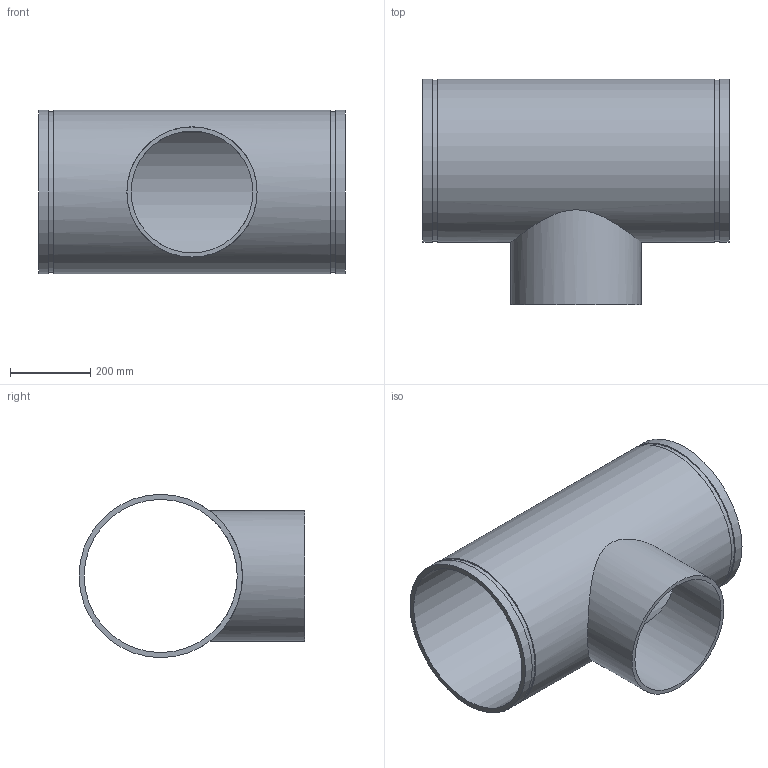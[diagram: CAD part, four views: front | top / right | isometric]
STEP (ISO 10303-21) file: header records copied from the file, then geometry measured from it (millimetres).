
FILE_DESCRIPTION(/* description */ ('VIC REDUCING TEE No 29T FFT (OGSxMPT)','CAx-IF Rec.Pracs.---Representation and Presentation of Product Manufacturing Information (PMI)---4.0---2014-10-13'),/* implementation_level */ '2;1');
FILE_NAME(/* name */ 'C:\Users\kkamble\AppData\Roaming\Autodesk\ApplicationPlugins\Back Up\Victaulic_IPS_Tee Reducing_No 29T FFT (OGSxMPT)\Victaulic_IPS_Tee Reducing_No 29T FFT (OGSxMPT)_16.0x12.0 (400x300).stp',/* time_stamp */ '2020-09-16T22:40:01+05:00',/* author */ ('CORINNE GRAY'),/* organization */ ('Victaulic'),/* preprocessor_version */ 'ST-DEVELOPER v17.2',/* originating_system */ 'Autodesk Inventor 2019',/* authorisation */ '');
FILE_SCHEMA (('AP242_MANAGED_MODEL_BASED_3D_ENGINEERING_MIM_LF { 1 0 10303 442 1 1 4 }'));
Length unit declared in the file: inch
Products named in the file (1): 29 FFT-16.0x12.0
Bounding box: 762 x 562.1 x 406.4 mm (x, y, z)
Volume: 12806706.5 mm3; surface area: 2159640.6 mm2
Topology: 1 solids, 1 shells, 15 faces, 32 edges, 24 vertices
Faces by surface type: cylinder 8, plane 7
Full cylindrical faces by diameter (mm): 303.225 x1, 323.85 x1, 381 x1, 400.837 x2, 406.4 x3
Entity records: 741 total; most frequent: CARTESIAN_POINT 253, DIRECTION 106, ORIENTED_EDGE 64, AXIS2_PLACEMENT_3D 49, EDGE_CURVE 32, EDGE_LOOP 24, VERTEX_POINT 24, CIRCLE 20
